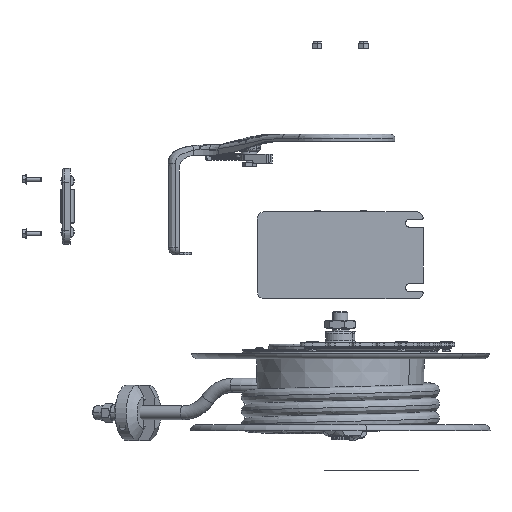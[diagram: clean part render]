
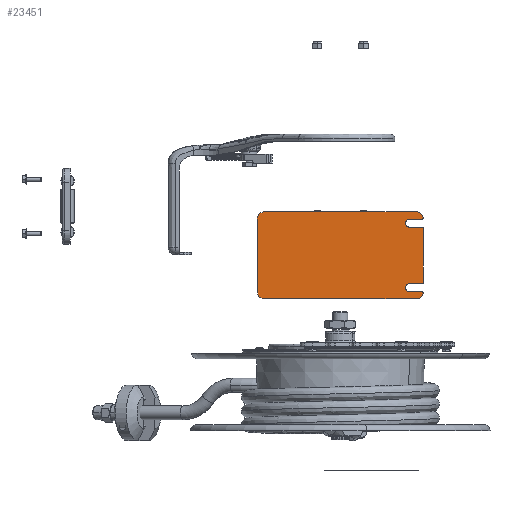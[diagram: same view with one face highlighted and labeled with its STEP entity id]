
A CAD part, front view. The second image highlights one B-rep face of the part: STEP entity #23451.
In plain terms, the highlighted planar face has unit normal (0, -1, 0).
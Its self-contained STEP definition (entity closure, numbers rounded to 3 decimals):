
#22599=CARTESIAN_POINT('',(4.411,-9.613,
-4.507));
#22600=DIRECTION('',(0.,-1.,0.));
#22601=DIRECTION('',(0.968,0.,-0.25));
#22602=AXIS2_PLACEMENT_3D('',#22599,#22600,#22601);
#22604=CARTESIAN_POINT('',(4.106,-9.613,
-4.429));
#22605=DIRECTION('',(0.,-1.,0.));
#22606=DIRECTION('',(0.,0.,-1.));
#22607=AXIS2_PLACEMENT_3D('',#22604,#22605,#22606);
#22609=DIRECTION('',(-1.,0.,0.));
#22610=VECTOR('',#22609,8.213);
#22611=CARTESIAN_POINT('',(4.106,-9.613,
-4.822));
#22612=LINE('',#22611,#22610);
#22613=CARTESIAN_POINT('',(-4.106,-9.613,
-4.429));
#22614=DIRECTION('',(0.,-1.,0.));
#22615=DIRECTION('',(-1.,0.,0.));
#22616=AXIS2_PLACEMENT_3D('',#22613,#22614,#22615);
#22618=DIRECTION('',(0.,0.,1.));
#22619=VECTOR('',#22618,3.933);
#22620=CARTESIAN_POINT('',(-4.5,-9.613,-4.429));
#22621=LINE('',#22620,#22619);
#22622=CARTESIAN_POINT('',(-4.106,-9.613,
-0.496));
#22623=DIRECTION('',(0.,-1.,0.));
#22624=DIRECTION('',(0.,0.,1.));
#22625=AXIS2_PLACEMENT_3D('',#22622,#22623,#22624);
#22627=DIRECTION('',(1.,0.,0.));
#22628=VECTOR('',#22627,8.213);
#22629=CARTESIAN_POINT('',(-4.106,-9.613,
-0.102));
#22630=LINE('',#22629,#22628);
#22631=CARTESIAN_POINT('',(4.106,-9.613,
-0.496));
#22632=DIRECTION('',(0.,-1.,0.));
#22633=DIRECTION('',(0.968,0.,0.25));
#22634=AXIS2_PLACEMENT_3D('',#22631,#22632,#22633);
#22636=CARTESIAN_POINT('',(4.411,-9.613,
-0.417));
#22637=DIRECTION('',(0.,-1.,0.));
#22638=DIRECTION('',(0.,0.,-1.));
#22639=AXIS2_PLACEMENT_3D('',#22636,#22637,#22638);
#22641=DIRECTION('',(-1.,0.,0.));
#22642=VECTOR('',#22641,0.663);
#22643=CARTESIAN_POINT('',(4.411,-9.613,
-0.496));
#22644=LINE('',#22643,#22642);
#22645=CARTESIAN_POINT('',(3.748,-9.613,
-0.713));
#22646=DIRECTION('',(0.,1.,0.));
#22647=DIRECTION('',(0.,0.,-1.));
#22648=AXIS2_PLACEMENT_3D('',#22645,#22646,#22647);
#22650=DIRECTION('',(-1.,0.,0.));
#22651=VECTOR('',#22650,0.673);
#22652=CARTESIAN_POINT('',(4.421,-9.613,
-0.929));
#22653=LINE('',#22652,#22651);
#22654=CARTESIAN_POINT('',(4.421,-9.613,
-1.008));
#22655=DIRECTION('',(0.,-1.,0.));
#22656=DIRECTION('',(1.,0.,0.));
#22657=AXIS2_PLACEMENT_3D('',#22654,#22655,#22656);
#22659=DIRECTION('',(0.,0.,-1.));
#22660=VECTOR('',#22659,2.909);
#22661=CARTESIAN_POINT('',(4.5,-9.613,-1.008));
#22662=LINE('',#22661,#22660);
#22663=CARTESIAN_POINT('',(4.421,-9.613,
-3.917));
#22664=DIRECTION('',(0.,-1.,0.));
#22665=DIRECTION('',(0.001,0.,-1.));
#22666=AXIS2_PLACEMENT_3D('',#22663,#22664,#22665);
#22668=DIRECTION('',(-1.,0.,-0.001));
#22669=VECTOR('',#22668,0.673);
#22670=CARTESIAN_POINT('',(4.421,-9.613,
-3.996));
#22671=LINE('',#22670,#22669);
#22672=CARTESIAN_POINT('',(3.748,-9.613,
-4.213));
#22673=DIRECTION('',(0.,1.,0.));
#22674=DIRECTION('',(0.,0.,-1.));
#22675=AXIS2_PLACEMENT_3D('',#22672,#22673,#22674);
#22677=DIRECTION('',(-1.,0.,0.));
#22678=VECTOR('',#22677,0.663);
#22679=CARTESIAN_POINT('',(4.411,-9.613,
-4.429));
#22680=LINE('',#22679,#22678);
#23178=CARTESIAN_POINT('',(4.106,-9.613,
-4.822));
#23180=VERTEX_POINT('',#23178);
#23182=CARTESIAN_POINT('',(4.106,-9.613,
-0.102));
#23184=VERTEX_POINT('',#23182);
#23190=CARTESIAN_POINT('',(-4.106,-9.613,
-0.102));
#23191=VERTEX_POINT('',#23190);
#23192=CARTESIAN_POINT('',(-4.5,-9.613,-0.496));
#23193=VERTEX_POINT('',#23192);
#23198=CARTESIAN_POINT('',(-4.5,-9.613,-4.429));
#23199=VERTEX_POINT('',#23198);
#23200=CARTESIAN_POINT('',(-4.106,-9.613,
-4.822));
#23201=VERTEX_POINT('',#23200);
#23324=CARTESIAN_POINT('',(3.748,-9.613,
-0.929));
#23325=CARTESIAN_POINT('',(3.748,-9.613,
-0.496));
#23326=VERTEX_POINT('',#23324);
#23327=VERTEX_POINT('',#23325);
#23328=CARTESIAN_POINT('',(3.748,-9.613,
-4.429));
#23329=CARTESIAN_POINT('',(3.748,-9.613,
-3.996));
#23330=VERTEX_POINT('',#23328);
#23331=VERTEX_POINT('',#23329);
#23336=CARTESIAN_POINT('',(4.487,-9.613,
-4.527));
#23337=VERTEX_POINT('',#23336);
#23338=CARTESIAN_POINT('',(4.411,-9.613,
-4.429));
#23339=VERTEX_POINT('',#23338);
#23344=CARTESIAN_POINT('',(4.421,-9.613,
-3.996));
#23345=VERTEX_POINT('',#23344);
#23346=CARTESIAN_POINT('',(4.5,-9.613,-3.917));
#23347=VERTEX_POINT('',#23346);
#23352=CARTESIAN_POINT('',(4.5,-9.613,-1.008));
#23353=VERTEX_POINT('',#23352);
#23354=CARTESIAN_POINT('',(4.421,-9.613,
-0.929));
#23355=VERTEX_POINT('',#23354);
#23360=CARTESIAN_POINT('',(4.411,-9.613,
-0.496));
#23361=VERTEX_POINT('',#23360);
#23362=CARTESIAN_POINT('',(4.487,-9.613,
-0.398));
#23363=VERTEX_POINT('',#23362);
#23408=CARTESIAN_POINT('',(0.,-9.613,-2.462));
#23409=DIRECTION('',(0.,1.,0.));
#23410=DIRECTION('',(1.,0.,0.));
#23411=AXIS2_PLACEMENT_3D('',#23408,#23409,#23410);
#23412=PLANE('',#23411);
#23414=ORIENTED_EDGE('',*,*,#23413,.F.);
#23416=ORIENTED_EDGE('',*,*,#23415,.F.);
#23418=ORIENTED_EDGE('',*,*,#23417,.T.);
#23420=ORIENTED_EDGE('',*,*,#23419,.F.);
#23422=ORIENTED_EDGE('',*,*,#23421,.T.);
#23424=ORIENTED_EDGE('',*,*,#23423,.F.);
#23426=ORIENTED_EDGE('',*,*,#23425,.T.);
#23428=ORIENTED_EDGE('',*,*,#23427,.F.);
#23430=ORIENTED_EDGE('',*,*,#23429,.F.);
#23432=ORIENTED_EDGE('',*,*,#23431,.T.);
#23434=ORIENTED_EDGE('',*,*,#23433,.F.);
#23436=ORIENTED_EDGE('',*,*,#23435,.F.);
#23438=ORIENTED_EDGE('',*,*,#23437,.F.);
#23440=ORIENTED_EDGE('',*,*,#23439,.T.);
#23442=ORIENTED_EDGE('',*,*,#23441,.F.);
#23444=ORIENTED_EDGE('',*,*,#23443,.T.);
#23446=ORIENTED_EDGE('',*,*,#23445,.F.);
#23448=ORIENTED_EDGE('',*,*,#23447,.F.);
#23449=EDGE_LOOP('',(#23414,#23416,#23418,#23420,#23422,#23424,#23426,#23428,
#23430,#23432,#23434,#23436,#23438,#23440,#23442,#23444,#23446,#23448));
#23450=FACE_OUTER_BOUND('',#23449,.F.);
#23451=ADVANCED_FACE('',(#23450),#23412,.F.);
#22603=CIRCLE('',#22602,0.079);
#22608=CIRCLE('',#22607,0.394);
#22617=CIRCLE('',#22616,0.394);
#22626=CIRCLE('',#22625,0.394);
#22635=CIRCLE('',#22634,0.394);
#22640=CIRCLE('',#22639,0.079);
#22649=CIRCLE('',#22648,0.217);
#22658=CIRCLE('',#22657,0.079);
#22667=CIRCLE('',#22666,0.079);
#22676=CIRCLE('',#22675,0.216);
#23413=EDGE_CURVE('',#23337,#23339,#22603,.T.);
#23415=EDGE_CURVE('',#23180,#23337,#22608,.T.);
#23417=EDGE_CURVE('',#23180,#23201,#22612,.T.);
#23419=EDGE_CURVE('',#23199,#23201,#22617,.T.);
#23421=EDGE_CURVE('',#23199,#23193,#22621,.T.);
#23423=EDGE_CURVE('',#23191,#23193,#22626,.T.);
#23425=EDGE_CURVE('',#23191,#23184,#22630,.T.);
#23427=EDGE_CURVE('',#23363,#23184,#22635,.T.);
#23429=EDGE_CURVE('',#23361,#23363,#22640,.T.);
#23431=EDGE_CURVE('',#23361,#23327,#22644,.T.);
#23433=EDGE_CURVE('',#23326,#23327,#22649,.T.);
#23435=EDGE_CURVE('',#23355,#23326,#22653,.T.);
#23437=EDGE_CURVE('',#23353,#23355,#22658,.T.);
#23439=EDGE_CURVE('',#23353,#23347,#22662,.T.);
#23441=EDGE_CURVE('',#23345,#23347,#22667,.T.);
#23443=EDGE_CURVE('',#23345,#23331,#22671,.T.);
#23445=EDGE_CURVE('',#23330,#23331,#22676,.T.);
#23447=EDGE_CURVE('',#23339,#23330,#22680,.T.);
